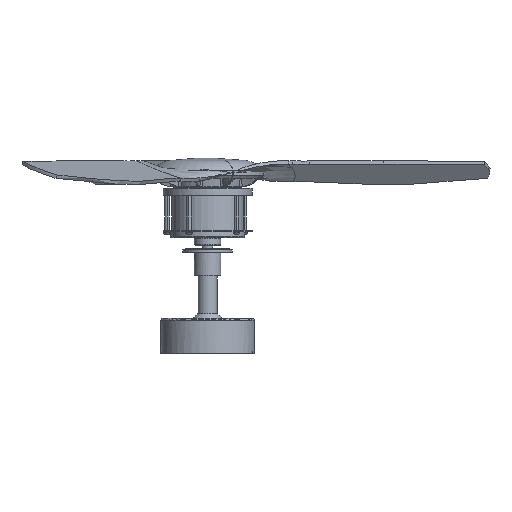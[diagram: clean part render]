
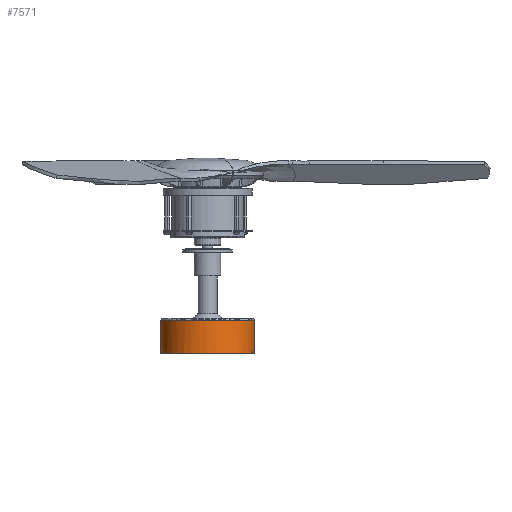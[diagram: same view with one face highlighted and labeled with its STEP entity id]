
A CAD part, left-side view. The second image highlights one B-rep face of the part: STEP entity #7571.
In plain terms, the highlighted cylindrical face has radius 65.49 mm (diameter 130.981 mm), a partial arc.
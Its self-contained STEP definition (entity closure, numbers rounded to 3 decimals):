
#495=CIRCLE('',#8221,65.49);
#684=CYLINDRICAL_SURFACE('',#8220,65.49);
#1172=FACE_OUTER_BOUND('',#1675,.T.);
#1675=EDGE_LOOP('',(#6931,#6932,#6933,#6934));
#2103=B_SPLINE_CURVE_WITH_KNOTS('',3,(#19185,#19186,#19187,#19188,#19189,
#19190,#19191,#19192,#19193,#19194,#19195),.UNSPECIFIED.,.F.,.F.,(4,1,1,
1,1,1,1,1,4),(0.,0.125,0.25,0.375,0.5,0.625,0.75,0.875,1.),
 .UNSPECIFIED.);
#2497=LINE('',#19200,#2892);
#2498=LINE('',#19201,#2893);
#2892=VECTOR('',#9849,304.8);
#2893=VECTOR('',#9850,304.8);
#3622=VERTEX_POINT('',#19037);
#3623=VERTEX_POINT('',#19038);
#3624=VERTEX_POINT('',#19197);
#3625=VERTEX_POINT('',#19198);
#4726=EDGE_CURVE('',#3623,#3622,#2103,.T.);
#4728=EDGE_CURVE('',#3622,#3624,#2497,.T.);
#4729=EDGE_CURVE('',#3625,#3623,#2498,.T.);
#4730=EDGE_CURVE('',#3625,#3624,#495,.T.);
#6931=ORIENTED_EDGE('',*,*,#4730,.F.);
#6932=ORIENTED_EDGE('',*,*,#4729,.T.);
#6933=ORIENTED_EDGE('',*,*,#4726,.T.);
#6934=ORIENTED_EDGE('',*,*,#4728,.T.);
#7571=ADVANCED_FACE('',(#1172),#684,.T.);
#8220=AXIS2_PLACEMENT_3D('',#19202,#9851,#9852);
#8221=AXIS2_PLACEMENT_3D('',#19203,#9853,#9854);
#9849=DIRECTION('',(0.,0.,-1.));
#9850=DIRECTION('',(0.,0.,1.));
#9851=DIRECTION('center_axis',(0.,0.,1.));
#9852=DIRECTION('ref_axis',(0.,1.,0.));
#9853=DIRECTION('center_axis',(0.,0.,-1.));
#9854=DIRECTION('ref_axis',(0.,1.,0.));
#19037=CARTESIAN_POINT('',(0.,65.49,47.032));
#19038=CARTESIAN_POINT('',(0.,-65.49,47.032));
#19185=CARTESIAN_POINT('Ctrl Pts',(0.,-65.49,
47.032));
#19186=CARTESIAN_POINT('Ctrl Pts',(-8.607,-65.576,
47.032));
#19187=CARTESIAN_POINT('Ctrl Pts',(-25.698,-62.04,
47.032));
#19188=CARTESIAN_POINT('Ctrl Pts',(-47.519,-47.525,
47.032));
#19189=CARTESIAN_POINT('Ctrl Pts',(-62.079,-25.712,
47.032));
#19190=CARTESIAN_POINT('Ctrl Pts',(-67.196,0.,
47.032));
#19191=CARTESIAN_POINT('Ctrl Pts',(-62.079,25.712,47.032));
#19192=CARTESIAN_POINT('Ctrl Pts',(-47.519,47.525,47.032));
#19193=CARTESIAN_POINT('Ctrl Pts',(-25.698,62.04,47.032));
#19194=CARTESIAN_POINT('Ctrl Pts',(-8.607,65.576,47.032));
#19195=CARTESIAN_POINT('Ctrl Pts',(0.,65.49,
47.032));
#19197=CARTESIAN_POINT('',(0.,65.49,0.));
#19198=CARTESIAN_POINT('',(0.,-65.49,0.));
#19200=CARTESIAN_POINT('',(0.,65.49,47.032));
#19201=CARTESIAN_POINT('',(0.,-65.49,0.));
#19202=CARTESIAN_POINT('Origin',(0.,0.,1687.792));
#19203=CARTESIAN_POINT('Origin',(0.,0.,0.));
